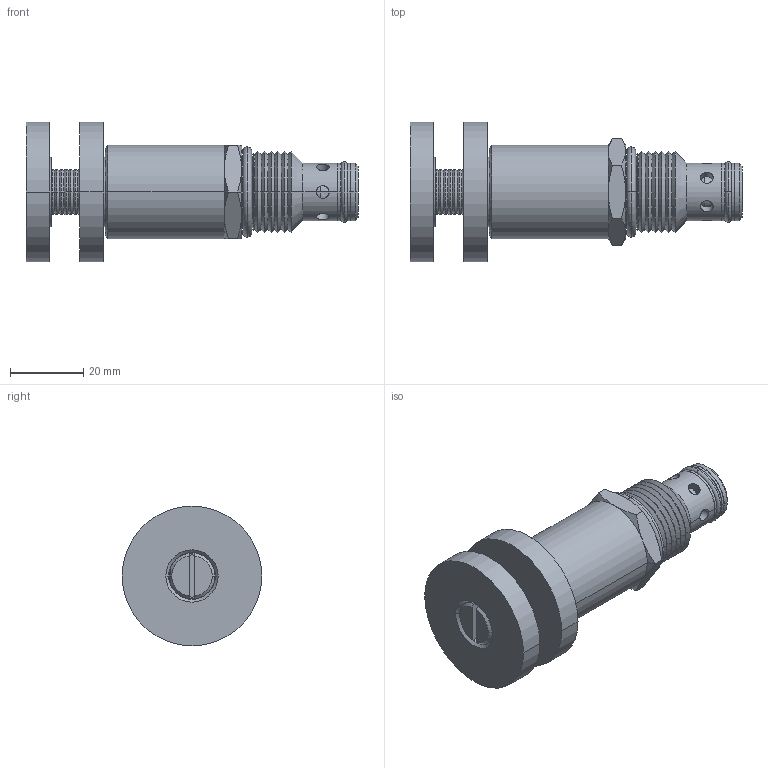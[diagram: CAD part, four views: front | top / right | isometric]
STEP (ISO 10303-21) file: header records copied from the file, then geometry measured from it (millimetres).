
FILE_DESCRIPTION((''),'2;1');
FILE_NAME('U:\Solid model CD\Solid model full\Mechanical\STEP\DENVB0K-3D Full.stp','2008-07-28T16:12:15',('Dan'),(''),'Autodesk Inventor 9','Autodesk Inventor 9','');
FILE_SCHEMA(('AUTOMOTIVE_DESIGN { 1 0 10303 214 1 1 1 1 }'));
Length unit declared in the file: inch
Products named in the file (8): DENVB0K-3D Full; DENVB0K-3D Full1; DENVB0K-3D Full2; DENVB0K-3D Full3; DENVB0K-3D Full4; DENVB0K-3D Full5; DENVB0K-3D Full6; DENVB0K-3D Full7
Assembly tree (7 placements, depth 2):
  DENVB0K-3D Full
    DENVB0K-3D Full1
    DENVB0K-3D Full2
    DENVB0K-3D Full3
    DENVB0K-3D Full4
    DENVB0K-3D Full5
    DENVB0K-3D Full6
    DENVB0K-3D Full7
Bounding box: 90.57 x 38.1 x 38.1 mm (x, y, z)
Volume: 42702.4 mm3; surface area: 15231 mm2
Topology: 7 solids, 7 shells, 223 faces, 489 edges, 281 vertices
Faces by surface type: cone 132, cylinder 48, plane 35, torus 8
Entity records: 6590 total; most frequent: CARTESIAN_POINT 1548, DIRECTION 1093, ORIENTED_EDGE 978, EDGE_CURVE 489, AXIS2_PLACEMENT_3D 462, VERTEX_POINT 281, EDGE_LOOP 248, CIRCLE 224
